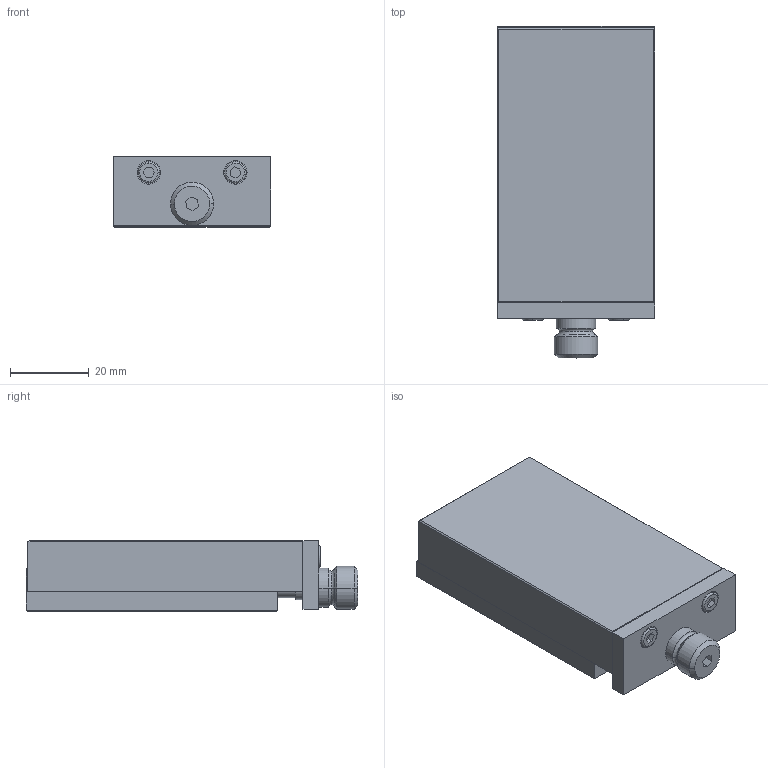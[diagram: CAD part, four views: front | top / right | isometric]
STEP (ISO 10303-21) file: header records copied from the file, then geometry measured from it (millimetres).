
FILE_DESCRIPTION(('STEP AP214'),'1');
FILE_NAME('tmp0.stp','2020-10-01T12:44:14',(' '),(' '),'Spatial InterOp 3D',' ',' ');
FILE_SCHEMA(('automotive_design'));
Length unit declared in the file: millimetre
Products named in the file (7): A70-40A_StepAP203|NONE#DIN_912;NONE; A70-40A_StepAP203|NONE#402.864.00;NONE; A70-40A_StepAP203|NONE#402.977.00;NONE; A70-40A_StepAP203|NONE#403.403.00;NONE; A70-40A_StepAP203|NONE#403.401.00;NONE; A70-40A_StepAP203|NONE#402.863.00;NONE
Bounding box: 40.04 x 84.5 x 18 mm (x, y, z)
Volume: 48964.7 mm3; surface area: 23673.5 mm2
Topology: 7 solids, 7 shells, 167 faces, 390 edges, 244 vertices
Faces by surface type: plane 83, cylinder 58, cone 18, torus 8
Entity records: 6423 total; most frequent: CARTESIAN_POINT 1022, DIRECTION 846, ORIENTED_EDGE 764, EDGE_CURVE 382, AXIS2_PLACEMENT_3D 304, VERTEX_POINT 244, LINE 238, VECTOR 238
